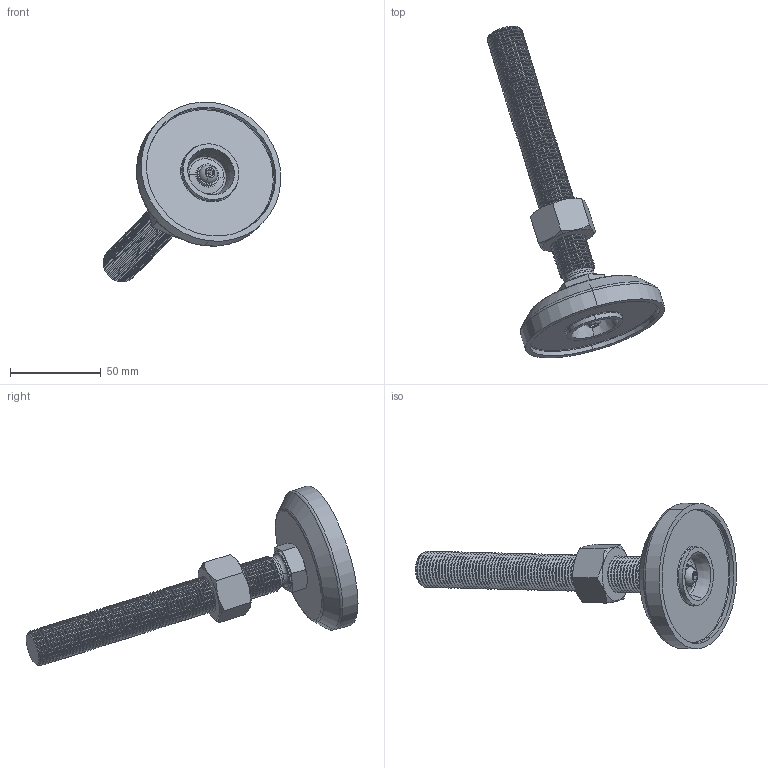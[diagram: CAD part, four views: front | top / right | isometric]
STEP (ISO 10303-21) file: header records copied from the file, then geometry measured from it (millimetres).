
FILE_DESCRIPTION (( 'STEP AP203' ), '1' );
FILE_NAME ('5.24.80.20.180.SS.STEP', '2014-05-20T06:37:17', ( 'USER' ), ( 'Microsoft' ), 'SwSTEP 2.0', 'SolidWorks 2012', '' );
FILE_SCHEMA (( 'CONFIG_CONTROL_DESIGN' ));
Length unit declared in the file: millimetre
Products named in the file (7): 5.24.80.20.180.SS; 80金属微调支脚脚垫; Hexagon socket button head screws GB_GB_SOCKET_TYPE7 M6X20-N; Hexagon nuts grade C GB_GB_FASTENER_NUT_SNC1 M20-N; Plain washers--Product grade C GB_GB_FASTENER_WASHER_SMWC 6; M6蹟隊踢扽杶; 150mm-M20支金属微调脚螺杆
Assembly tree (6 placements, depth 2):
  5.24.80.20.180.SS
    150mm-M20支金属微调脚螺杆
    M6蹟隊踢扽杶
    Plain washers--Product grade C GB_GB_FASTENER_WASHER_SMWC 6
    Hexagon nuts grade C GB_GB_FASTENER_NUT_SNC1 M20-N
    Hexagon socket button head screws GB_GB_SOCKET_TYPE7 M6X20-N
    80金属微调支脚脚垫
Bounding box: 97.62 x 182.48 x 98.82 mm (x, y, z)
Volume: 124941.7 mm3; surface area: 36729.4 mm2
Topology: 6 solids, 6 shells, 835 faces, 1686 edges, 868 vertices
Faces by surface type: torus 310, cone 306, cylinder 170, plane 41, sphere 8
Entity records: 22273 total; most frequent: DIRECTION 4514, CARTESIAN_POINT 3536, ORIENTED_EDGE 3368, AXIS2_PLACEMENT_3D 1998, EDGE_CURVE 1684, CIRCLE 1154, VERTEX_POINT 868, EDGE_LOOP 850
